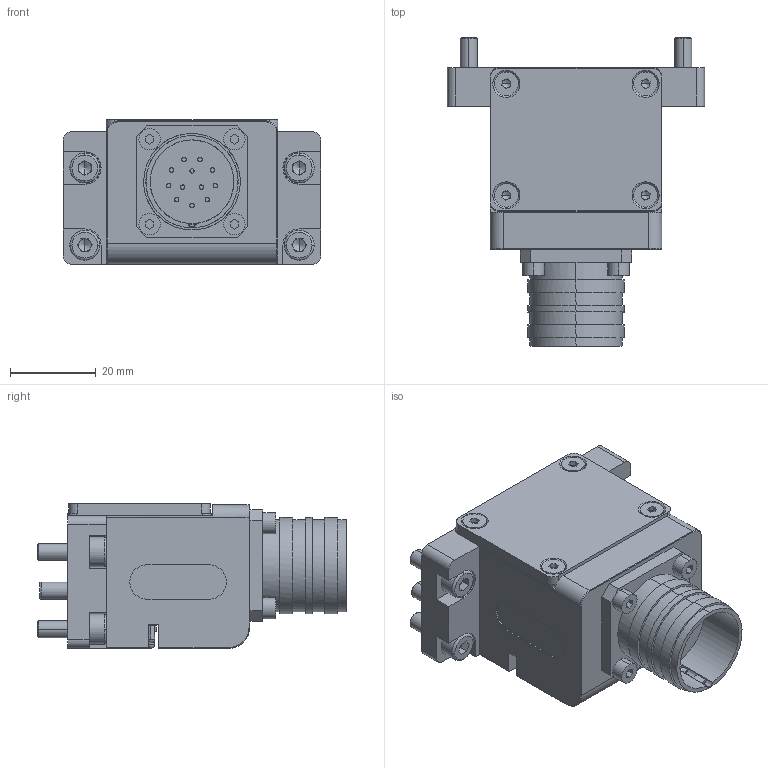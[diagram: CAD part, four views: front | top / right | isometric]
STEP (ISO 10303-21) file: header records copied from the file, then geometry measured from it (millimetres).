
FILE_DESCRIPTION (( 'STEP AP203' ), '1' );
FILE_NAME ('QCSM-12G.STEP', '2023-12-27T09:13:50', ( '微软用户' ), ( '微软中国' ), 'SwSTEP 2.0', 'SolidWorks 2018', '' );
FILE_SCHEMA (( 'CONFIG_CONTROL_DESIGN' ));
Products named in the file (1): QCSM-12G
Bounding box: 60 x 72 x 33.8 mm (x, y, z)
Volume: 79457.2 mm3; surface area: 24699.3 mm2
Topology: 6 solids, 6 shells, 1012 faces, 2742 edges, 1828 vertices
Faces by surface type: plane 419, cylinder 411, cone 124, sphere 38, torus 20
Entity records: 38638 total; most frequent: CARTESIAN_POINT 15576, ORIENTED_EDGE 5296, DIRECTION 3902, EDGE_CURVE 2648, VERTEX_POINT 1790, AXIS2_PLACEMENT_3D 1551, B_SPLINE_CURVE_WITH_KNOTS 1310, EDGE_LOOP 1156
